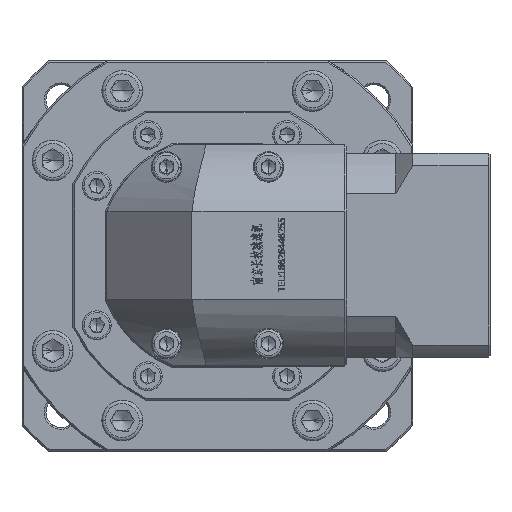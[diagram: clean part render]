
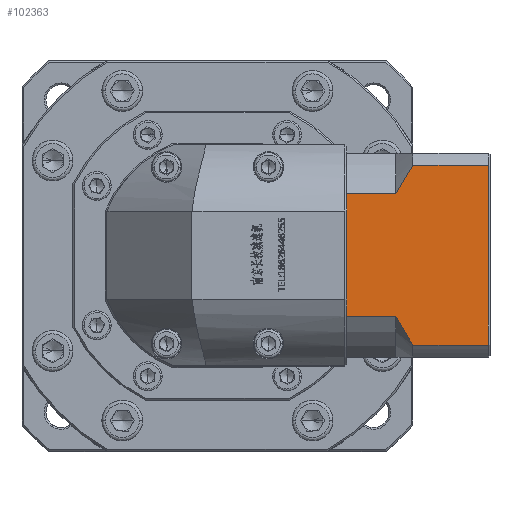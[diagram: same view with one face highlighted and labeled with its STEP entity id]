
A CAD part, top view. The second image highlights one B-rep face of the part: STEP entity #102363.
In plain terms, the highlighted planar face has unit normal (0, 0, 1).
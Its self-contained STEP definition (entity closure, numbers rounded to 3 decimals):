
#1087 = CARTESIAN_POINT ( 'NONE',  ( 63.081, 12.033, 318.152 ) ) ;
#2093 = VERTEX_POINT ( 'NONE', #49618 ) ;
#4751 = VERTEX_POINT ( 'NONE', #170068 ) ;
#4897 = VERTEX_POINT ( 'NONE', #143243 ) ;
#5328 = EDGE_CURVE ( 'NONE', #2093, #75692, #53825, .T. ) ;
#6863 = EDGE_CURVE ( 'NONE', #125476, #127465, #128534, .T. ) ;
#7800 = CARTESIAN_POINT ( 'NONE',  ( 68.081, 56.519, 318.152 ) ) ;
#11013 = DIRECTION ( 'NONE',  ( 0., 0., -1. ) ) ;
#13209 = DIRECTION ( 'NONE',  ( 1., 0., 0. ) ) ;
#13910 = EDGE_CURVE ( 'NONE', #104215, #160105, #19196, .T. ) ;
#15163 = CARTESIAN_POINT ( 'NONE',  ( 66.306, 6.346, 318.152 ) ) ;
#15705 = CARTESIAN_POINT ( 'NONE',  ( 48.581, 60.061, 318.152 ) ) ;
#15996 = CARTESIAN_POINT ( 'NONE',  ( 90.281, 56.519, 318.152 ) ) ;
#16407 = ORIENTED_EDGE ( 'NONE', *, *, #106101, .T. ) ;
#16426 = LINE ( 'NONE', #140616, #58006 ) ;
#16817 = VECTOR ( 'NONE', #96823, 1000. ) ;
#18903 = EDGE_CURVE ( 'NONE', #4897, #127465, #172988, .T. ) ;
#19196 = LINE ( 'NONE', #54820, #126565 ) ;
#21162 = CARTESIAN_POINT ( 'NONE',  ( 48.581, 12.033, 318.152 ) ) ;
#24157 = VECTOR ( 'NONE', #164847, 1000. ) ;
#29253 = CARTESIAN_POINT ( 'NONE',  ( 68.081, 3.604, 318.152 ) ) ;
#30619 = VERTEX_POINT ( 'NONE', #55365 ) ;
#32077 = CARTESIAN_POINT ( 'NONE',  ( 48.581, 60.061, 318.152 ) ) ;
#33546 = ORIENTED_EDGE ( 'NONE', *, *, #169247, .F. ) ;
#36497 = LINE ( 'NONE', #32077, #97854 ) ;
#37922 = ORIENTED_EDGE ( 'NONE', *, *, #137639, .F. ) ;
#38554 = PLANE ( 'NONE',  #67728 ) ;
#38844 = CARTESIAN_POINT ( 'NONE',  ( 90.281, 60.061, 318.152 ) ) ;
#45870 = CARTESIAN_POINT ( 'NONE',  ( 63.081, 12.033, 318.152 ) ) ;
#49618 = CARTESIAN_POINT ( 'NONE',  ( 48.581, 13.024, 318.152 ) ) ;
#50210 = VECTOR ( 'NONE', #86567, 1000. ) ;
#53825 = LINE ( 'NONE', #15705, #86736 ) ;
#54820 = CARTESIAN_POINT ( 'NONE',  ( 63.081, 48.089, 318.152 ) ) ;
#55365 = CARTESIAN_POINT ( 'NONE',  ( 68.081, 3.604, 318.152 ) ) ;
#56215 = EDGE_LOOP ( 'NONE', ( #33546, #96888, #104843, #127707, #97872, #16407, #110231, #131103, #37922, #92759 ) ) ;
#56356 = CARTESIAN_POINT ( 'NONE',  ( 68.081, 56.519, 318.152 ) ) ;
#58006 = VECTOR ( 'NONE', #70754, 1000. ) ;
#63675 = VERTEX_POINT ( 'NONE', #100978 ) ;
#67668 = CARTESIAN_POINT ( 'NONE',  ( 63.081, 48.089, 318.152 ) ) ;
#67728 = AXIS2_PLACEMENT_3D ( 'NONE', #94896, #11013, #108919 ) ;
#70416 = CARTESIAN_POINT ( 'NONE',  ( 64.633, 50.972, 318.152 ) ) ;
#70754 = DIRECTION ( 'NONE',  ( 0., -1., 0. ) ) ;
#75692 = VERTEX_POINT ( 'NONE', #21162 ) ;
#79063 = LINE ( 'NONE', #45870, #116254 ) ;
#79142 = B_SPLINE_CURVE_WITH_KNOTS ( 'NONE', 3,
 ( #1087, #84989, #99066, #15163, #113070, #29253 ),
 .UNSPECIFIED., .F., .F.,
 ( 4, 2, 4 ),
 ( 0.1, 0.104, 0.109 ),
 .UNSPECIFIED. ) ;
#80647 = FACE_OUTER_BOUND ( 'NONE', #56215, .T. ) ;
#84586 = CARTESIAN_POINT ( 'NONE',  ( 63.081, 48.089, 318.152 ) ) ;
#84989 = CARTESIAN_POINT ( 'NONE',  ( 63.832, 10.577, 318.152 ) ) ;
#85583 = EDGE_CURVE ( 'NONE', #63675, #2093, #36497, .T. ) ;
#86567 = DIRECTION ( 'NONE',  ( -1., 0., 0. ) ) ;
#86736 = VECTOR ( 'NONE', #113630, 1000. ) ;
#91604 = EDGE_CURVE ( 'NONE', #125476, #160105, #164203, .T. ) ;
#92759 = ORIENTED_EDGE ( 'NONE', *, *, #116698, .T. ) ;
#94896 = CARTESIAN_POINT ( 'NONE',  ( 90.781, 60.061, 318.152 ) ) ;
#96823 = DIRECTION ( 'NONE',  ( 1., 0., 0. ) ) ;
#96888 = ORIENTED_EDGE ( 'NONE', *, *, #18903, .T. ) ;
#97854 = VECTOR ( 'NONE', #171524, 1000. ) ;
#97872 = ORIENTED_EDGE ( 'NONE', *, *, #13910, .F. ) ;
#98063 = CARTESIAN_POINT ( 'NONE',  ( 66.309, 53.78, 318.152 ) ) ;
#99066 = CARTESIAN_POINT ( 'NONE',  ( 64.632, 9.152, 318.152 ) ) ;
#100978 = CARTESIAN_POINT ( 'NONE',  ( 48.581, 47.098, 318.152 ) ) ;
#102363 = ADVANCED_FACE ( 'NONE', ( #80647 ), #38554, .F. ) ;
#104215 = VERTEX_POINT ( 'NONE', #141863 ) ;
#104843 = ORIENTED_EDGE ( 'NONE', *, *, #6863, .F. ) ;
#106101 = EDGE_CURVE ( 'NONE', #104215, #63675, #16426, .T. ) ;
#108919 = DIRECTION ( 'NONE',  ( 1., 0., 0. ) ) ;
#110231 = ORIENTED_EDGE ( 'NONE', *, *, #85583, .T. ) ;
#112074 = CARTESIAN_POINT ( 'NONE',  ( 67.182, 55.159, 318.152 ) ) ;
#113070 = CARTESIAN_POINT ( 'NONE',  ( 67.18, 4.966, 318.152 ) ) ;
#113630 = DIRECTION ( 'NONE',  ( 0., -1., 0. ) ) ;
#116254 = VECTOR ( 'NONE', #129791, 1000. ) ;
#116698 = EDGE_CURVE ( 'NONE', #4751, #30619, #79142, .T. ) ;
#125476 = VERTEX_POINT ( 'NONE', #7800 ) ;
#126565 = VECTOR ( 'NONE', #13209, 1000. ) ;
#127465 = VERTEX_POINT ( 'NONE', #15996 ) ;
#127707 = ORIENTED_EDGE ( 'NONE', *, *, #91604, .T. ) ;
#128534 = LINE ( 'NONE', #180510, #16817 ) ;
#129791 = DIRECTION ( 'NONE',  ( -1., 0., 0. ) ) ;
#131103 = ORIENTED_EDGE ( 'NONE', *, *, #5328, .T. ) ;
#137639 = EDGE_CURVE ( 'NONE', #4751, #75692, #79063, .T. ) ;
#140616 = CARTESIAN_POINT ( 'NONE',  ( 48.581, 60.061, 318.152 ) ) ;
#141863 = CARTESIAN_POINT ( 'NONE',  ( 48.581, 48.089, 318.152 ) ) ;
#143243 = CARTESIAN_POINT ( 'NONE',  ( 90.281, 3.604, 318.152 ) ) ;
#156862 = CARTESIAN_POINT ( 'NONE',  ( 63.081, 3.604, 318.152 ) ) ;
#157545 = LINE ( 'NONE', #156862, #50210 ) ;
#160105 = VERTEX_POINT ( 'NONE', #67668 ) ;
#164203 = B_SPLINE_CURVE_WITH_KNOTS ( 'NONE', 3,
 ( #56356, #112074, #98063, #70416, #168306, #84586 ),
 .UNSPECIFIED., .F., .F.,
 ( 4, 2, 4 ),
 ( 0.052, 0.057, 0.062 ),
 .UNSPECIFIED. ) ;
#164847 = DIRECTION ( 'NONE',  ( 0., 1., 0. ) ) ;
#168306 = CARTESIAN_POINT ( 'NONE',  ( 63.829, 49.541, 318.152 ) ) ;
#169247 = EDGE_CURVE ( 'NONE', #4897, #30619, #157545, .T. ) ;
#170068 = CARTESIAN_POINT ( 'NONE',  ( 63.081, 12.033, 318.152 ) ) ;
#171524 = DIRECTION ( 'NONE',  ( 0., -1., 0. ) ) ;
#172988 = LINE ( 'NONE', #38844, #24157 ) ;
#180510 = CARTESIAN_POINT ( 'NONE',  ( 63.081, 56.519, 318.152 ) ) ;
